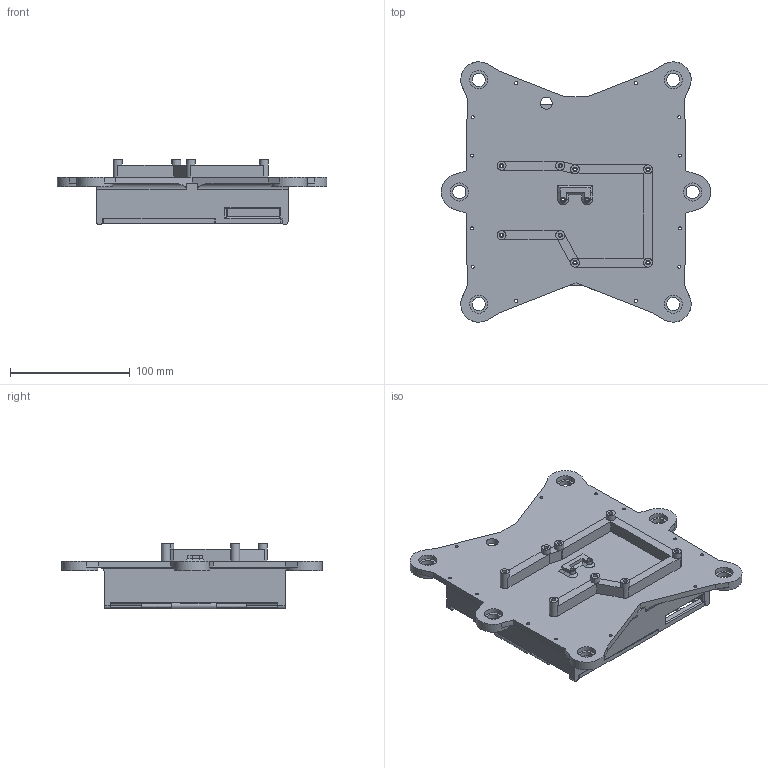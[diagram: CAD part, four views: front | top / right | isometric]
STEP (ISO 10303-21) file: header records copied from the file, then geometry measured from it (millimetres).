
FILE_DESCRIPTION(/* description */ (''),/* implementation_level */ '2;1');
FILE_NAME(/* name */ 'base_hinge.step',/* time_stamp */ '2026-06-11T18:37:42-06:00',/* author */ (''),/* organization */ (''),/* preprocessor_version */ 'ST-DEVELOPER v20.1',/* originating_system */ 'Autodesk Translation Framework v15.8.0.0',/* authorisation */ '');
FILE_SCHEMA (('AUTOMOTIVE_DESIGN { 1 0 10303 214 3 1 1 }'));
Length unit declared in the file: millimetre
Products named in the file (1): base_hinge
Bounding box: 225 x 217.43 x 55 mm (x, y, z)
Volume: 427135.2 mm3; surface area: 154010.4 mm2
Topology: 1 solids, 1 shells, 425 faces, 1158 edges, 756 vertices
Faces by surface type: plane 188, bspline 124, cylinder 109, cone 4
Full cylindrical faces by diameter (mm): 2.5 x25, 2.7 x2, 3 x4, 3.15 x1, 3.5 x16, 4.75 x2, 7.5 x7, 10 x1, 11 x6, 15.1 x6, 30 x6
Entity records: 14332 total; most frequent: CARTESIAN_POINT 4288, ORIENTED_EDGE 2310, DIRECTION 1734, EDGE_CURVE 1155, VERTEX_POINT 756, LINE 612, VECTOR 612, EDGE_LOOP 566
